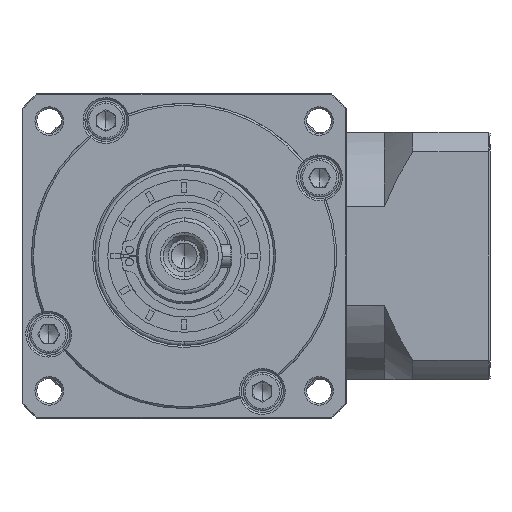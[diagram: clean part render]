
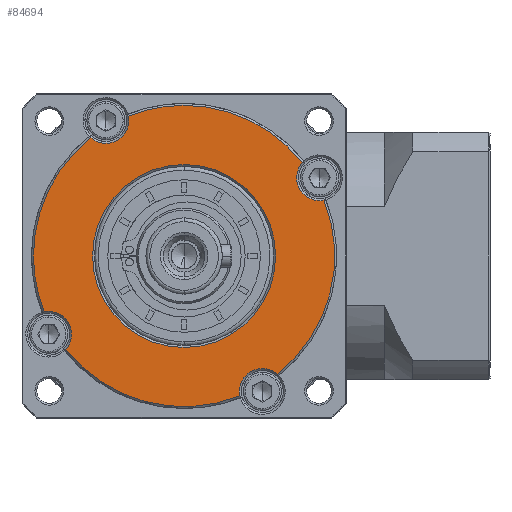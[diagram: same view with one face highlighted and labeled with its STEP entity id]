
A CAD part, left-side view. The second image highlights one B-rep face of the part: STEP entity #84694.
In plain terms, the highlighted planar face has unit normal (-1, 0, 0).
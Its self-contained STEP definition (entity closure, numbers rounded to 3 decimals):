
#2808 = ORIENTED_EDGE ( 'NONE', *, *, #27267, .F. ) ;
#3932 = CARTESIAN_POINT ( 'NONE',  ( -81.328, -21.065, -161.96 ) ) ;
#5754 = DIRECTION ( 'NONE',  ( 1., 0., 0. ) ) ;
#6894 = DIRECTION ( 'NONE',  ( 0., 0., 1. ) ) ;
#7095 = VERTEX_POINT ( 'NONE', #100026 ) ;
#7181 = EDGE_CURVE ( 'NONE', #120148, #96707, #145503, .T. ) ;
#8863 = DIRECTION ( 'NONE',  ( 0., -1., 0. ) ) ;
#8931 = VERTEX_POINT ( 'NONE', #140437 ) ;
#11055 = CARTESIAN_POINT ( 'NONE',  ( -81.328, -6.446, -125.264 ) ) ;
#11588 = AXIS2_PLACEMENT_3D ( 'NONE', #124465, #43177, #138118 ) ;
#13383 = VERTEX_POINT ( 'NONE', #17162 ) ;
#15739 = AXIS2_PLACEMENT_3D ( 'NONE', #129902, #48665, #143605 ) ;
#17162 = CARTESIAN_POINT ( 'NONE',  ( -81.328, -30.915, -156.272 ) ) ;
#17338 = CARTESIAN_POINT ( 'NONE',  ( -81.328, -6.446, -125.264 ) ) ;
#18015 = CARTESIAN_POINT ( 'NONE',  ( -81.328, -6.446, -125.264 ) ) ;
#18083 = AXIS2_PLACEMENT_3D ( 'NONE', #143434, #62095, #157091 ) ;
#19217 = AXIS2_PLACEMENT_3D ( 'NONE', #47129, #142053, #60758 ) ;
#20894 = AXIS2_PLACEMENT_3D ( 'NONE', #171419, #90114, #8863 ) ;
#23765 = CIRCLE ( 'NONE', #15739, 6. ) ;
#24543 = CARTESIAN_POINT ( 'NONE',  ( -81.328, 29.061, -145.764 ) ) ;
#24683 = DIRECTION ( 'NONE',  ( 0., 0., 1. ) ) ;
#27267 = EDGE_CURVE ( 'NONE', #138132, #13383, #31002, .T. ) ;
#30578 = ORIENTED_EDGE ( 'NONE', *, *, #68542, .T. ) ;
#30944 = DIRECTION ( 'NONE',  ( 0., 0., 1. ) ) ;
#31002 = CIRCLE ( 'NONE', #106345, 39.5 ) ;
#31636 = DIRECTION ( 'NONE',  ( 0., 1., 0. ) ) ;
#31691 = EDGE_CURVE ( 'NONE', #141725, #144307, #111786, .T. ) ;
#36004 = CARTESIAN_POINT ( 'NONE',  ( -81.328, -26.946, -160.771 ) ) ;
#36681 = EDGE_LOOP ( 'NONE', ( #50032, #166860, #118190, #134428, #88624, #41936, #81349, #93410, #2808, #98209, #47428, #114672 ) ) ;
#36741 = CIRCLE ( 'NONE', #160414, 6. ) ;
#38136 = DIRECTION ( 'NONE',  ( 0., 0., -1. ) ) ;
#40887 = CARTESIAN_POINT ( 'NONE',  ( -81.328, -43.141, -110.645 ) ) ;
#41936 = ORIENTED_EDGE ( 'NONE', *, *, #101458, .T. ) ;
#43177 = DIRECTION ( 'NONE',  ( 1., 0., 0. ) ) ;
#47129 = CARTESIAN_POINT ( 'NONE',  ( -81.328, -6.446, -125.264 ) ) ;
#47428 = ORIENTED_EDGE ( 'NONE', *, *, #77356, .T. ) ;
#47958 = AXIS2_PLACEMENT_3D ( 'NONE', #69203, #164135, #82822 ) ;
#48526 = CARTESIAN_POINT ( 'NONE',  ( -81.328, 24.562, -149.734 ) ) ;
#48665 = DIRECTION ( 'NONE',  ( 1., 0., 0. ) ) ;
#49011 = EDGE_CURVE ( 'NONE', #166057, #58133, #128935, .T. ) ;
#49620 = CIRCLE ( 'NONE', #70910, 6. ) ;
#49624 = DIRECTION ( 'NONE',  ( 0., 0., -1. ) ) ;
#50032 = ORIENTED_EDGE ( 'NONE', *, *, #49011, .F. ) ;
#53851 = DIRECTION ( 'NONE',  ( 1., 0., 0. ) ) ;
#55820 = CARTESIAN_POINT ( 'NONE',  ( -81.328, 8.173, -88.569 ) ) ;
#58133 = VERTEX_POINT ( 'NONE', #86887 ) ;
#58663 = EDGE_CURVE ( 'NONE', #58133, #155379, #63041, .T. ) ;
#60758 = DIRECTION ( 'NONE',  ( 0., -1., 0. ) ) ;
#62095 = DIRECTION ( 'NONE',  ( 1., 0., 0. ) ) ;
#63041 = CIRCLE ( 'NONE', #86150, 39.5 ) ;
#68542 = EDGE_CURVE ( 'NONE', #144307, #141725, #68920, .T. ) ;
#68920 = CIRCLE ( 'NONE', #19217, 24. ) ;
#69093 = EDGE_CURVE ( 'NONE', #154769, #13383, #36741, .T. ) ;
#69203 = CARTESIAN_POINT ( 'NONE',  ( -81.328, -6.446, -125.264 ) ) ;
#70233 = AXIS2_PLACEMENT_3D ( 'NONE', #24543, #119417, #38136 ) ;
#70910 = AXIS2_PLACEMENT_3D ( 'NONE', #153525, #72206, #167143 ) ;
#71323 = AXIS2_PLACEMENT_3D ( 'NONE', #135158, #53851, #148820 ) ;
#72206 = DIRECTION ( 'NONE',  ( 1., 0., 0. ) ) ;
#77356 = EDGE_CURVE ( 'NONE', #8931, #155379, #49620, .T. ) ;
#81349 = ORIENTED_EDGE ( 'NONE', *, *, #174404, .F. ) ;
#82822 = DIRECTION ( 'NONE',  ( 0., 0., -1. ) ) ;
#84694 = ADVANCED_FACE ( 'NONE', ( #171636, #139749 ), #95292, .T. ) ;
#86150 = AXIS2_PLACEMENT_3D ( 'NONE', #17338, #112232, #30944 ) ;
#86887 = CARTESIAN_POINT ( 'NONE',  ( -81.328, -6.446, -85.764 ) ) ;
#86981 = CARTESIAN_POINT ( 'NONE',  ( -81.328, -6.446, -125.264 ) ) ;
#88142 = DIRECTION ( 'NONE',  ( 1., 0., 0. ) ) ;
#88624 = ORIENTED_EDGE ( 'NONE', *, *, #175001, .F. ) ;
#90114 = DIRECTION ( 'NONE',  ( 1., 0., 0. ) ) ;
#93410 = ORIENTED_EDGE ( 'NONE', *, *, #69093, .T. ) ;
#95292 = PLANE ( 'NONE',  #47958 ) ;
#96707 = VERTEX_POINT ( 'NONE', #106907 ) ;
#96732 = CARTESIAN_POINT ( 'NONE',  ( -81.328, 14.054, -95.757 ) ) ;
#97130 = EDGE_CURVE ( 'NONE', #166057, #115460, #144681, .T. ) ;
#98209 = ORIENTED_EDGE ( 'NONE', *, *, #164115, .T. ) ;
#99124 = AXIS2_PLACEMENT_3D ( 'NONE', #11055, #105950, #24683 ) ;
#100026 = CARTESIAN_POINT ( 'NONE',  ( -81.328, 30.249, -139.883 ) ) ;
#100189 = CIRCLE ( 'NONE', #70233, 6. ) ;
#100600 = DIRECTION ( 'NONE',  ( 0., 0., 1. ) ) ;
#101398 = CARTESIAN_POINT ( 'NONE',  ( -81.328, 17.554, -125.264 ) ) ;
#101458 = EDGE_CURVE ( 'NONE', #7095, #162621, #100189, .T. ) ;
#105950 = DIRECTION ( 'NONE',  ( 1., 0., 0. ) ) ;
#106345 = AXIS2_PLACEMENT_3D ( 'NONE', #169456, #88142, #6894 ) ;
#106907 = CARTESIAN_POINT ( 'NONE',  ( -81.328, 18.024, -94.256 ) ) ;
#110834 = AXIS2_PLACEMENT_3D ( 'NONE', #86981, #5754, #100600 ) ;
#110836 = EDGE_CURVE ( 'NONE', #115460, #96707, #134809, .T. ) ;
#111786 = CIRCLE ( 'NONE', #20894, 24. ) ;
#112232 = DIRECTION ( 'NONE',  ( 1., 0., 0. ) ) ;
#112921 = DIRECTION ( 'NONE',  ( 1., 0., 0. ) ) ;
#114672 = ORIENTED_EDGE ( 'NONE', *, *, #58663, .F. ) ;
#115460 = VERTEX_POINT ( 'NONE', #96732 ) ;
#118190 = ORIENTED_EDGE ( 'NONE', *, *, #110836, .T. ) ;
#119417 = DIRECTION ( 'NONE',  ( 1., 0., 0. ) ) ;
#120148 = VERTEX_POINT ( 'NONE', #173891 ) ;
#124054 = ORIENTED_EDGE ( 'NONE', *, *, #31691, .T. ) ;
#124465 = CARTESIAN_POINT ( 'NONE',  ( -81.328, 14.054, -89.757 ) ) ;
#128935 = CIRCLE ( 'NONE', #99124, 39.5 ) ;
#129902 = CARTESIAN_POINT ( 'NONE',  ( -81.328, -41.953, -104.764 ) ) ;
#130727 = CARTESIAN_POINT ( 'NONE',  ( -81.328, -30.446, -125.264 ) ) ;
#130877 = DIRECTION ( 'NONE',  ( 1., 0., 0. ) ) ;
#133633 = CARTESIAN_POINT ( 'NONE',  ( -81.328, -37.454, -100.795 ) ) ;
#134428 = ORIENTED_EDGE ( 'NONE', *, *, #7181, .F. ) ;
#134809 = CIRCLE ( 'NONE', #71323, 6. ) ;
#135158 = CARTESIAN_POINT ( 'NONE',  ( -81.328, 14.054, -89.757 ) ) ;
#138118 = DIRECTION ( 'NONE',  ( 0., 0., -1. ) ) ;
#138132 = VERTEX_POINT ( 'NONE', #40887 ) ;
#139749 = FACE_BOUND ( 'NONE', #152248, .T. ) ;
#140437 = CARTESIAN_POINT ( 'NONE',  ( -81.328, -41.953, -110.764 ) ) ;
#141725 = VERTEX_POINT ( 'NONE', #101398 ) ;
#142053 = DIRECTION ( 'NONE',  ( 1., 0., 0. ) ) ;
#143434 = CARTESIAN_POINT ( 'NONE',  ( -81.328, -6.446, -125.264 ) ) ;
#143605 = DIRECTION ( 'NONE',  ( 0., 0., -1. ) ) ;
#144307 = VERTEX_POINT ( 'NONE', #130727 ) ;
#144681 = CIRCLE ( 'NONE', #11588, 6. ) ;
#145503 = CIRCLE ( 'NONE', #18083, 39.5 ) ;
#148820 = DIRECTION ( 'NONE',  ( 0., 0., -1. ) ) ;
#152248 = EDGE_LOOP ( 'NONE', ( #30578, #124054 ) ) ;
#153408 = CIRCLE ( 'NONE', #110834, 39.5 ) ;
#153525 = CARTESIAN_POINT ( 'NONE',  ( -81.328, -41.953, -104.764 ) ) ;
#154769 = VERTEX_POINT ( 'NONE', #3932 ) ;
#155379 = VERTEX_POINT ( 'NONE', #133633 ) ;
#157091 = DIRECTION ( 'NONE',  ( 0., 1., 0. ) ) ;
#160414 = AXIS2_PLACEMENT_3D ( 'NONE', #36004, #130877, #49624 ) ;
#162621 = VERTEX_POINT ( 'NONE', #48526 ) ;
#164115 = EDGE_CURVE ( 'NONE', #138132, #8931, #23765, .T. ) ;
#164135 = DIRECTION ( 'NONE',  ( -1., 0., 0. ) ) ;
#166057 = VERTEX_POINT ( 'NONE', #55820 ) ;
#166860 = ORIENTED_EDGE ( 'NONE', *, *, #97130, .T. ) ;
#167143 = DIRECTION ( 'NONE',  ( 0., 0., -1. ) ) ;
#167724 = AXIS2_PLACEMENT_3D ( 'NONE', #18015, #112921, #31636 ) ;
#169456 = CARTESIAN_POINT ( 'NONE',  ( -81.328, -6.446, -125.264 ) ) ;
#171419 = CARTESIAN_POINT ( 'NONE',  ( -81.328, -6.446, -125.264 ) ) ;
#171636 = FACE_OUTER_BOUND ( 'NONE', #36681, .T. ) ;
#172494 = CIRCLE ( 'NONE', #167724, 39.5 ) ;
#173891 = CARTESIAN_POINT ( 'NONE',  ( -81.328, 33.054, -125.264 ) ) ;
#174404 = EDGE_CURVE ( 'NONE', #154769, #162621, #153408, .T. ) ;
#175001 = EDGE_CURVE ( 'NONE', #7095, #120148, #172494, .T. ) ;
